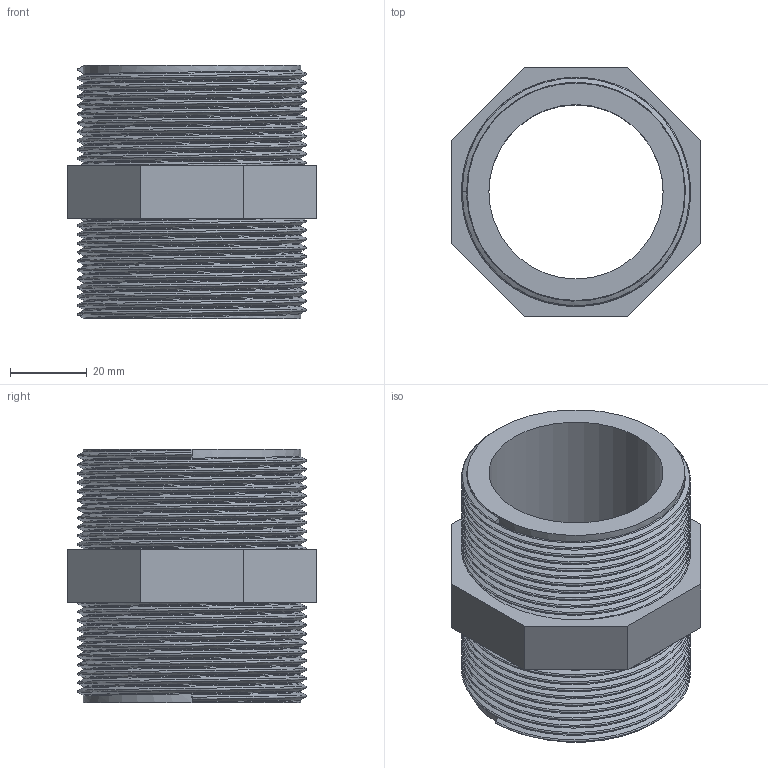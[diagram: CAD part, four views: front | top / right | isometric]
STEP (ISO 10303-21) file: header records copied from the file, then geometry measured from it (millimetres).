
FILE_DESCRIPTION(/* description */ ('PVC-U nipplo filettato BSP'),/* implementation_level */ '2;1');
FILE_NAME(/* name */ 'C:\Users\POLYPIPE\Desktop\DATASET INVENTOR\LIBRERIA EFFAST\RACCORDI 3DxWEB\RER\3D_RERNIE\3D_RERNIE063G.stp',/* time_stamp */ '2018-01-19T16:43:21+01:00',/* author */ ('POLYPIPE'),/* organization */ ('Polypipe Italia s.r.l.'),/* preprocessor_version */ 'ST-DEVELOPER v16.1',/* originating_system */ 'Autodesk Inventor 2016',/* authorisation */ '');
FILE_SCHEMA (('CONFIG_CONTROL_DESIGN'));
Length unit declared in the file: millimetre
Products named in the file (1): 3D_RERNIE
Bounding box: 65 x 65 x 66 mm (x, y, z)
Volume: 79919.7 mm3; surface area: 31858.5 mm2
Topology: 1 solids, 1 shells, 27 faces, 63 edges, 40 vertices
Faces by surface type: plane 14, bspline 10, cylinder 3
Full cylindrical faces by diameter (mm): 45.4 x1, 56.656 x2
Entity records: 9184 total; most frequent: CARTESIAN_POINT 8606, ORIENTED_EDGE 124, DIRECTION 86, EDGE_CURVE 62, VERTEX_POINT 40, EDGE_LOOP 32, LINE 30, VECTOR 30
